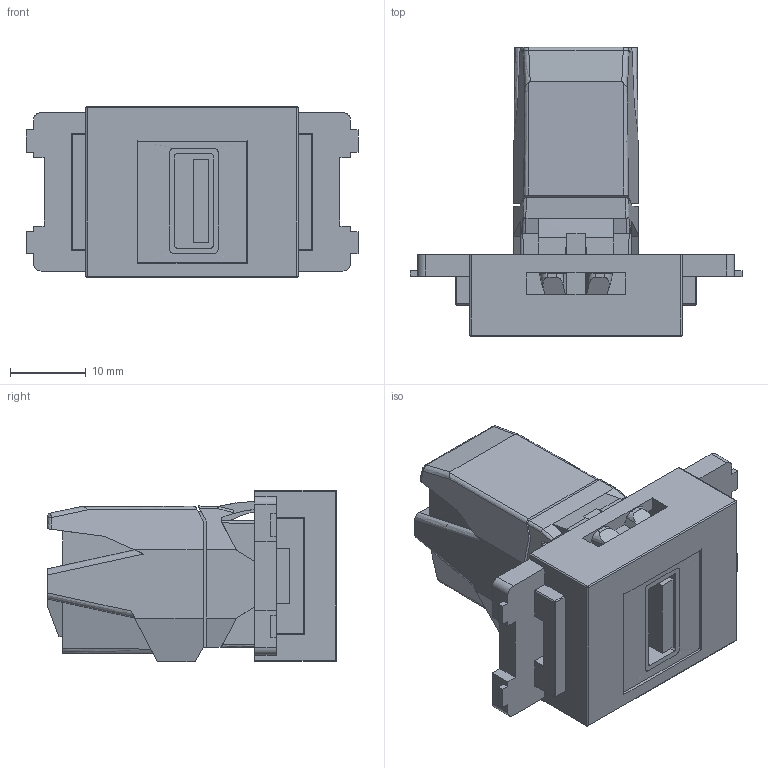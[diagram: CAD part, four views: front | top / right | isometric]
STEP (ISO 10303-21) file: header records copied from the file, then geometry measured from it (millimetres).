
FILE_DESCRIPTION(('FreeCAD Model'),'2;1');
FILE_NAME('Open CASCADE Shape Model','2026-05-12T10:10:02',(''),(''), 'Open CASCADE STEP processor 7.8','FreeCAD','Unknown');
FILE_SCHEMA(('AUTOMOTIVE_DESIGN { 1 0 10303 214 1 1 1 1 }'));
Length unit declared in the file: millimetre
Products named in the file (3): CC_LUSBA_XX_KH; SY-NWT-KH-xx; 210USB07N2WH
Assembly tree (2 placements, depth 2):
  CC_LUSBA_XX_KH
    SY-NWT-KH-xx
    210USB07N2WH
Bounding box: 43.95 x 38.25 x 22.69 mm (x, y, z)
Volume: 12656.9 mm3; surface area: 8617.1 mm2
Topology: 2 solids, 2 shells, 297 faces, 833 edges, 542 vertices
Faces by surface type: bspline 297
Entity records: 13663 total; most frequent: CARTESIAN_POINT 8581, ORIENTED_EDGE 1666, EDGE_CURVE 833, B_SPLINE_CURVE_WITH_KNOTS 833, VERTEX_POINT 542, FACE_BOUND 309, EDGE_LOOP 309, ADVANCED_FACE 297
